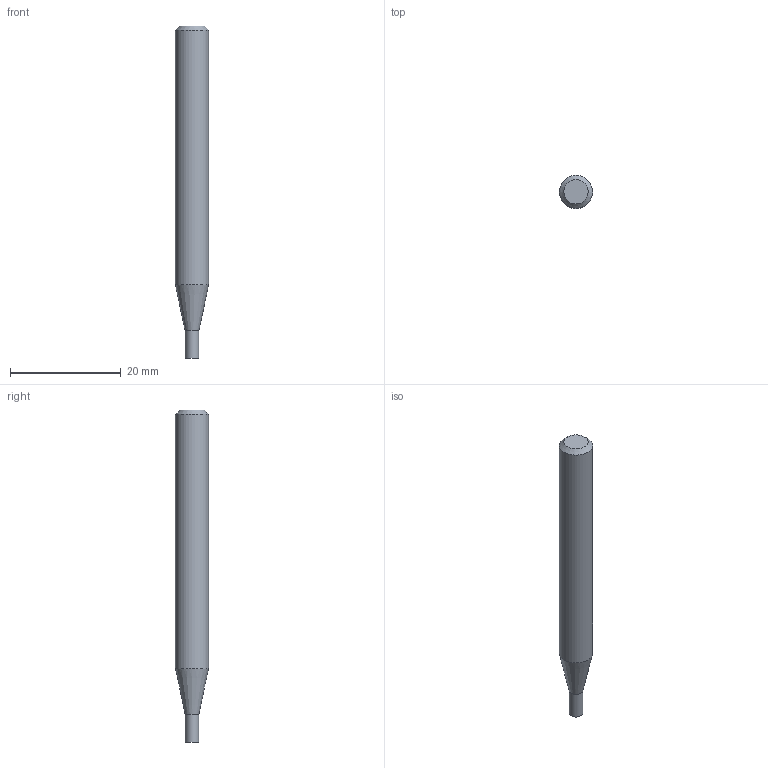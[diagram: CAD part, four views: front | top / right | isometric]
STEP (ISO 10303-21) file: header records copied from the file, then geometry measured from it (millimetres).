
FILE_DESCRIPTION((''),'2;1');
FILE_NAME('C:\Users\nsx150\AppData\Local\Temp\Mastercam 2021\AMKO7YXE3Q\TEMP.step','2024-03-15T17:54:53',(''),(''),'STEP Write','Mastercam 2021 ... CNC Software, Inc.','');
FILE_SCHEMA(('AUTOMOTIVE_DESIGN'));
Length unit declared in the file: millimetre
Products named in the file (1): None
Bounding box: 6 x 6 x 60 mm (x, y, z)
Volume: 1464.7 mm3; surface area: 1066.5 mm2
Topology: 2 solids, 2 shells, 8 faces, 10 edges, 6 vertices
Faces by surface type: plane 4, cylinder 2, cone 2
Full cylindrical faces by diameter (mm): 2.5 x1, 6 x1
Entity records: 190 total; most frequent: DIRECTION 32, CARTESIAN_POINT 22, AXIS2_PLACEMENT_3D 16, ORIENTED_EDGE 12, EDGE_LOOP 12, STYLED_ITEM 11, ADVANCED_FACE 8, VERTEX_POINT 6
